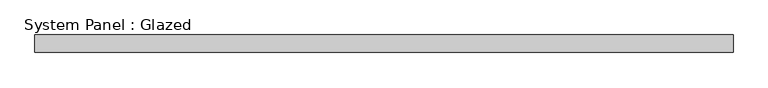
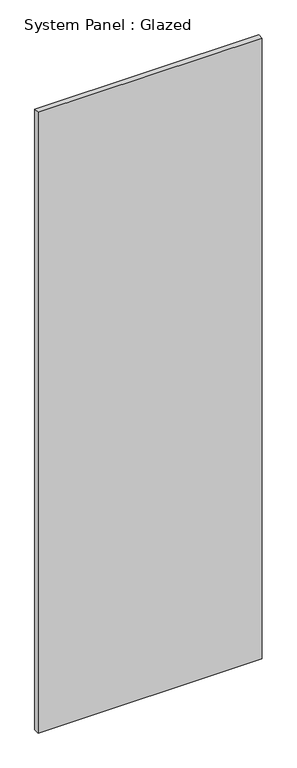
"""IFC4 building model written with IfcOpenShell, lengths in millimetres: plate geometry, System Panel : Glazed."""

from ifc_helpers import new_model, si_unit, origin, origin_with_axes, place, context, project, spatial, polyline, outline, extrude, source, transform, mapped, element, save


def system_panel_glazed_032a6ecb(model_context):
    return source(origin(), model_context, "Body", "SweptSolid", [
        extrude(outline(polyline([(509.5875001, -44.45), (-509.5875001, -44.45), (-509.5875001, -19.05), (509.5875001, -19.05), (509.5875001, -44.45)])), origin_with_axes(), (0.0, 0.0, 1.0), 2984.5),
    ])


if __name__ == "__main__":
    model = new_model("IFC4")
    model_context = context("Model", 3, world=origin())
    ifc_project = project(units=[si_unit("LENGTHUNIT", "METRE", prefix="MILLI")], contexts=[model_context])
    site = spatial("IfcSite", under=ifc_project)
    building = spatial("IfcBuilding", under=site)
    placement = place(None, origin())
    system_panel_glazed_shape = system_panel_glazed_032a6ecb(model_context)
    element("IfcPlate", 1, ObjectType="System Panel : Glazed", at=placement, inside=building, context=model_context, shape_type="MappedRepresentation", body=[
        mapped(system_panel_glazed_shape, transform((0.0, 0.0, 0.0), x_axis=(1.0, 0.0, 0.0), y_axis=(0.0, 1.0, 0.0), z_axis=(0.0, 0.0, 1.0))),
    ])
    save(model, "model.ifc")
